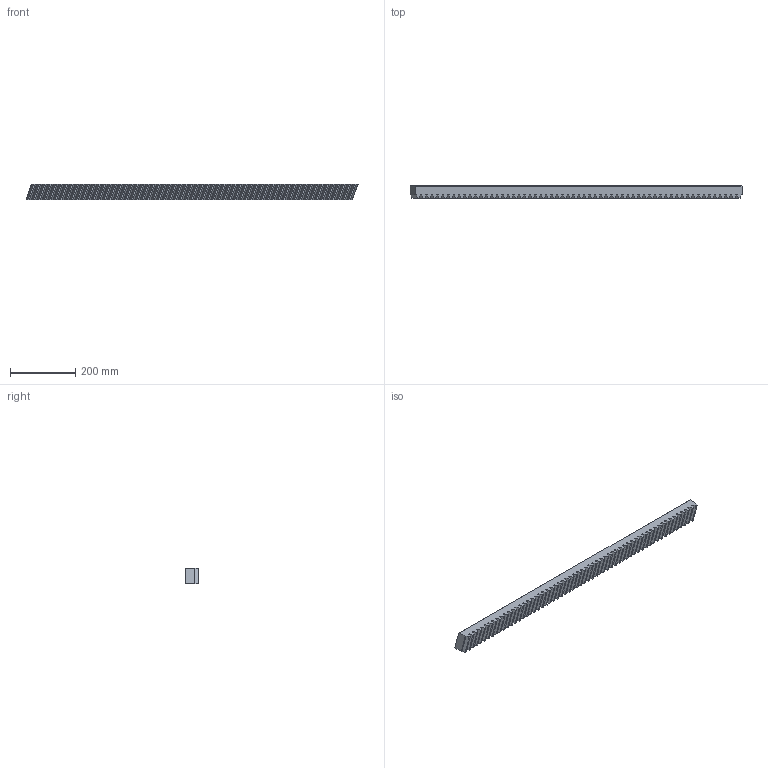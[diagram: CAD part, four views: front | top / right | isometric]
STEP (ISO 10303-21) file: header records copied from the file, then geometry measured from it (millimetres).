
FILE_DESCRIPTION(/* description */ (''),/* implementation_level */ '2;1');
FILE_NAME(/* name */ 'BL-1HR26R050100.ipt',/* time_stamp */ '2019-06-18T08:37:24+02:00',/* author */ ('VĂ©gh MĂˇtĂ©'),/* organization */ ('Bearing Kft'),/* preprocessor_version */ 'ST-DEVELOPER v16.7',/* originating_system */ 'DEX',/* authorisation */ $);
FILE_SCHEMA (('TECHNICAL_DATA_PACKAGING','AUTOMOTIVE_DESIGN {1 0 10303 214 3 1 1}'));
Length unit declared in the file: millimetre
Products named in the file (1): BL-1HR26R050100.ipt
Bounding box: 1017.38 x 39 x 49 mm (x, y, z)
Volume: 1645881.8 mm3; surface area: 215453.8 mm2
Topology: 1 solids, 1 shells, 695 faces, 1911 edges, 1274 vertices
Faces by surface type: plane 494, bspline 199, cylinder 2
Entity records: 27367 total; most frequent: CARTESIAN_POINT 10322, ORIENTED_EDGE 3802, DIRECTION 2981, EDGE_CURVE 1901, LINE 1499, VECTOR 1499, VERTEX_POINT 1274, EDGE_LOOP 761
